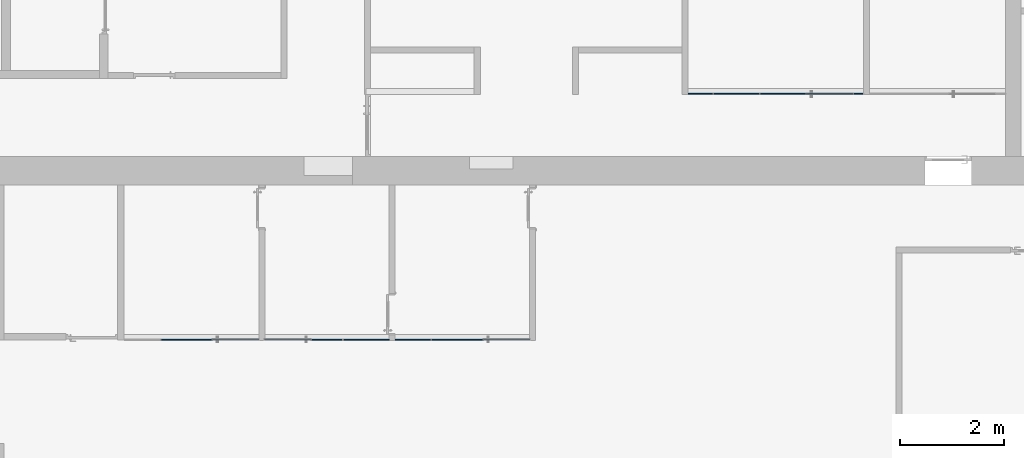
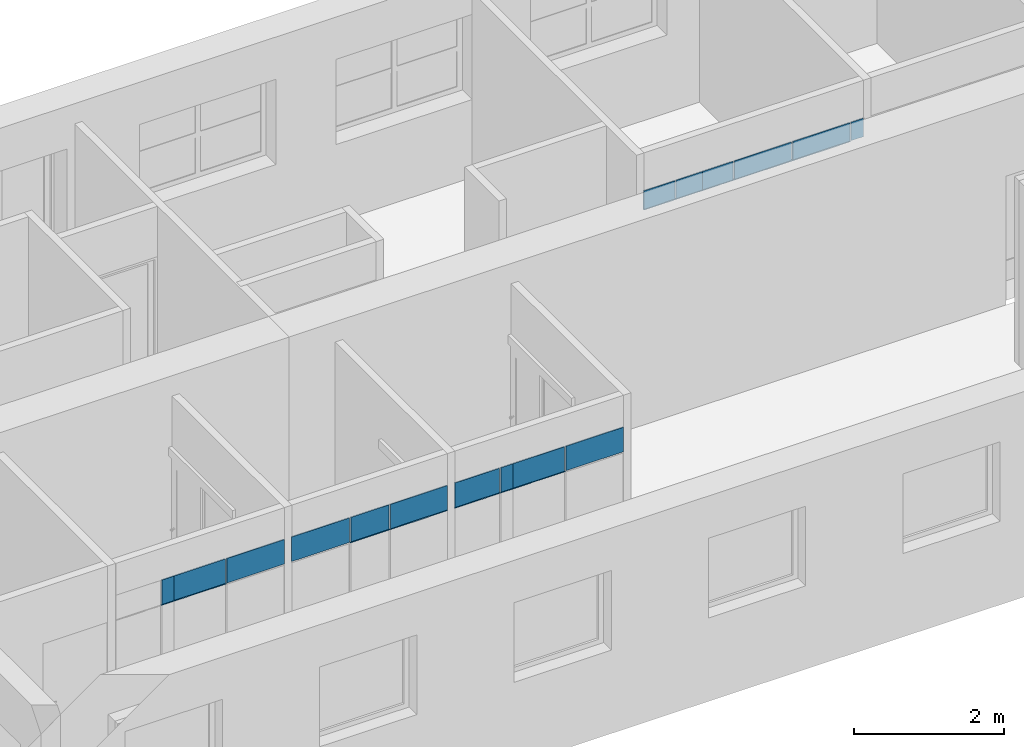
# One storey, part 14 of 49: 28 plates, 4 elements without a shape of their own.
"""IFC2X3 building model written with IfcOpenShell, lengths in millimetres."""

from ifc_helpers import new_model, entity, si_unit, converted_unit, derived_unit, direction, frame, origin, origin_2d_with_axis, place, context, subcontext, project, spatial, rectangle, extrude, source, transform, mapped, material, layer, layer_set, layer_usage, type_object, type_shapes, element, aggregate, save


model = new_model("IFC2X3")

# Units and contexts
model_context = context("Model", 3, precision=0.01, world=origin(), true_north=direction((6.12303176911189e-17, 1.0)))
body_context = subcontext(model_context, "Body", "Model", "MODEL_VIEW")
ifc_project = project(units=[si_unit("LENGTHUNIT", "METRE", prefix="MILLI"), si_unit("AREAUNIT", "SQUARE_METRE"), si_unit("VOLUMEUNIT", "CUBIC_METRE"), converted_unit("PLANEANGLEUNIT", "DEGREE", entity("IfcRatioMeasure", 0.0174532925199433), si_unit("PLANEANGLEUNIT", "RADIAN"), dimensions=[0, 0, 0, 0, 0, 0, 0]), si_unit("MASSUNIT", "GRAM", prefix="KILO"), derived_unit("MASSDENSITYUNIT", [(si_unit("MASSUNIT", "GRAM", prefix="KILO"), 1), (si_unit("LENGTHUNIT", "METRE"), -3)]), si_unit("TIMEUNIT", "SECOND"), si_unit("FREQUENCYUNIT", "HERTZ"), si_unit("THERMODYNAMICTEMPERATUREUNIT", "DEGREE_CELSIUS"), derived_unit("THERMALTRANSMITTANCEUNIT", [(si_unit("MASSUNIT", "GRAM", prefix="KILO"), 1), (si_unit("THERMODYNAMICTEMPERATUREUNIT", "KELVIN"), -1), (si_unit("TIMEUNIT", "SECOND"), -3)]), derived_unit("VOLUMETRICFLOWRATEUNIT", [(si_unit("LENGTHUNIT", "METRE"), 3), (si_unit("TIMEUNIT", "SECOND"), -1)]), si_unit("ELECTRICCURRENTUNIT", "AMPERE"), si_unit("ELECTRICVOLTAGEUNIT", "VOLT"), si_unit("POWERUNIT", "WATT"), si_unit("FORCEUNIT", "NEWTON", prefix="KILO"), si_unit("ILLUMINANCEUNIT", "LUX"), si_unit("LUMINOUSFLUXUNIT", "LUMEN"), si_unit("LUMINOUSINTENSITYUNIT", "CANDELA"), derived_unit("USERDEFINED", [(si_unit("MASSUNIT", "GRAM", prefix="KILO"), -1), (si_unit("LENGTHUNIT", "METRE"), -2), (si_unit("TIMEUNIT", "SECOND"), 3), (si_unit("LUMINOUSFLUXUNIT", "LUMEN"), 1)]), derived_unit("LINEARVELOCITYUNIT", [(si_unit("LENGTHUNIT", "METRE"), 1), (si_unit("TIMEUNIT", "SECOND"), -1)]), si_unit("PRESSUREUNIT", "PASCAL"), derived_unit("USERDEFINED", [(si_unit("LENGTHUNIT", "METRE"), -2), (si_unit("MASSUNIT", "GRAM", prefix="KILO"), 1), (si_unit("TIMEUNIT", "SECOND"), -2)])], contexts=[model_context])

# Site, building, storey
site_placement = place(None, frame((-151.875543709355, 2715.0, 0.0)))
site = spatial("IfcSite", under=ifc_project, at=site_placement, Name="Surface", CompositionType="ELEMENT")
building_placement = place(site_placement, origin())
building = spatial("IfcBuilding", under=site, at=building_placement, CompositionType="ELEMENT")
storey_placement = place(building_placement, origin())
storey = spatial("IfcBuildingStorey", under=building, at=storey_placement, Name="1 korrus", CompositionType="ELEMENT", Elevation=3.0969999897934e-10)

# Curtain wall, plates
curtain_wall_type_1 = type_object("IfcCurtainWallType", Name="Curtain Wall:Klaassein KLS-01", PredefinedType="NOTDEFINED")
curtain_wall_1_placement = place(storey_placement, origin())
curtain_wall_1 = element("IfcCurtainWall", 1, at=curtain_wall_1_placement, inside=storey, type_object=curtain_wall_type_1, Name="Curtain Wall:Klaassein KLS-01", ObjectType="Curtain Wall:Klaassein KLS-01")
ifc_material = material(Name="<Unnamed>")
ifc_layer = layer(ifc_material, 20.0)
ifc_layer_set = layer_set([ifc_layer], Name="Curtain Wall:Klaassein KLS-01")
ifc_layer_usage_1 = layer_usage(ifc_layer_set, "AXIS3", "POSITIVE", 0.0)
plate_type_1 = type_object("IfcPlateType", Name="Glazed", PredefinedType="CURTAIN_PANEL", material=ifc_layer_set)
shared_shape_1 = source(origin(), body_context, "Body", "SweptSolid", [
    extrude(rectangle(XDim=20.0, YDim=701.999999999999, at=origin_2d_with_axis()), frame((0.0, 0.0, 0.0), z_axis=(0.0, 0.0, 1.0), x_axis=(0.0, 1.0, 0.0)), (0.0, 0.0, 1.0), 9.99999999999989),
])
type_shapes(plate_type_1, [shared_shape_1])
plate_1_placement = place(curtain_wall_1_placement, frame((17404.2710850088, 3017.5, 2090.0)))
plate_1 = element("IfcPlate", 2, at=plate_1_placement, type_object=plate_type_1, material=ifc_layer_usage_1, Name="System Panel:Glazed", ObjectType="Glazed", context=body_context, shape_type="MappedRepresentation", body=[
    mapped(shared_shape_1, transform((0.0, 0.0, 0.0), scale=1.0)),
])
ifc_layer_usage_2 = layer_usage(ifc_layer_set, "AXIS3", "POSITIVE", 0.0)
plate_type_2 = type_object("IfcPlateType", Name="Glazed", PredefinedType="CURTAIN_PANEL", material=ifc_layer_set)
shared_shape_2 = source(origin(), body_context, "Body", "SweptSolid", [
    extrude(rectangle(XDim=20.0, YDim=198.000000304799, at=origin_2d_with_axis()), frame((0.0, 0.0, 0.0), z_axis=(0.0, 0.0, 1.0), x_axis=(0.0, 1.0, 0.0)), (0.0, 0.0, 1.0), 9.99999999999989),
])
type_shapes(plate_type_2, [shared_shape_2])
plate_2_placement = place(curtain_wall_1_placement, frame((17854.2710851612, 3017.49999999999, 2090.0)))
plate_2 = element("IfcPlate", 3, at=plate_2_placement, type_object=plate_type_2, material=ifc_layer_usage_2, Name="System Panel:Glazed", ObjectType="Glazed", context=body_context, shape_type="MappedRepresentation", body=[
    mapped(shared_shape_2, transform((0.0, 0.0, 0.0), scale=1.0)),
])

# Curtain wall, plate
curtain_wall_2_placement = place(storey_placement, origin())
curtain_wall_2 = element("IfcCurtainWall", 4, at=curtain_wall_2_placement, inside=storey, type_object=curtain_wall_type_1, Name="Curtain Wall:Klaassein KLS-01", ObjectType="Curtain Wall:Klaassein KLS-01")
ifc_layer_usage_3 = layer_usage(ifc_layer_set, "AXIS3", "POSITIVE", 0.0)
plate_3_placement = place(curtain_wall_2_placement, frame((12623.271085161, 3017.50000000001, 2090.0)))
plate_3 = element("IfcPlate", 5, at=plate_3_placement, type_object=plate_type_2, material=ifc_layer_usage_3, Name="System Panel:Glazed", ObjectType="Glazed", context=body_context, shape_type="MappedRepresentation", body=[
    mapped(shared_shape_2, transform((0.0, 0.0, 0.0), scale=1.0)),
])

# Plate
ifc_layer_usage_4 = layer_usage(ifc_layer_set, "AXIS3", "POSITIVE", 0.0)
plate_type_3 = type_object("IfcPlateType", Name="Glazed", PredefinedType="CURTAIN_PANEL", material=ifc_layer_set)
shared_shape_3 = source(origin(), body_context, "Body", "SweptSolid", [
    extrude(rectangle(XDim=20.0, YDim=801.999999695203, at=origin_2d_with_axis()), frame((0.0, 0.0, 0.0), z_axis=(0.0, 0.0, 1.0), x_axis=(0.0, 1.0, 0.0)), (0.0, 0.0, 1.0), 9.99999999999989),
])
type_shapes(plate_type_3, [shared_shape_3])
plate_4_placement = place(curtain_wall_1_placement, frame((18354.2710851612, 3017.49999999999, 2090.0)))
plate_4 = element("IfcPlate", 6, at=plate_4_placement, type_object=plate_type_3, material=ifc_layer_usage_4, Name="System Panel:Glazed", ObjectType="Glazed", context=body_context, shape_type="MappedRepresentation", body=[
    mapped(shared_shape_3, transform((0.0, 0.0, 0.0), scale=1.0)),
])

ifc_layer_usage_5 = layer_usage(ifc_layer_set, "AXIS3", "POSITIVE", 0.0)
plate_5_placement = place(curtain_wall_2_placement, frame((13123.271085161, 3017.50000000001, 2090.0)))
plate_5 = element("IfcPlate", 7, at=plate_5_placement, type_object=plate_type_3, material=ifc_layer_usage_5, Name="System Panel:Glazed", ObjectType="Glazed", context=body_context, shape_type="MappedRepresentation", body=[
    mapped(shared_shape_3, transform((0.0, 0.0, 0.0), scale=1.0)),
])

ifc_layer_usage_6 = layer_usage(ifc_layer_set, "AXIS3", "POSITIVE", 0.0)
plate_type_4 = type_object("IfcPlateType", Name="Glazed", PredefinedType="CURTAIN_PANEL", material=ifc_layer_set)
shared_shape_4 = source(origin(), body_context, "Body", "SweptSolid", [
    extrude(rectangle(XDim=20.0, YDim=691.999999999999, at=origin_2d_with_axis()), frame((0.0, 0.0, 0.0), z_axis=(0.0, 0.0, 1.0), x_axis=(0.0, 1.0, 0.0)), (0.0, 0.0, 1.0), 400.000000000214),
])
type_shapes(plate_type_4, [shared_shape_4])
plate_6_placement = place(curtain_wall_1_placement, frame((17399.2710850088, 3017.5, 2100.0)))
plate_6 = element("IfcPlate", 8, at=plate_6_placement, type_object=plate_type_4, material=ifc_layer_usage_6, Name="System Panel:Glazed", ObjectType="Glazed", context=body_context, shape_type="MappedRepresentation", body=[
    mapped(shared_shape_4, transform((0.0, 0.0, 0.0), scale=1.0)),
])

ifc_layer_usage_7 = layer_usage(ifc_layer_set, "AXIS3", "POSITIVE", 0.0)
plate_type_5 = type_object("IfcPlateType", Name="Glazed", PredefinedType="CURTAIN_PANEL", material=ifc_layer_set)
shared_shape_5 = source(origin(), body_context, "Body", "SweptSolid", [
    extrude(rectangle(XDim=20.0, YDim=188.0000003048, at=origin_2d_with_axis()), frame((0.0, 0.0, 0.0), z_axis=(0.0, 0.0, 1.0), x_axis=(0.0, 1.0, 0.0)), (0.0, 0.0, 1.0), 400.000000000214),
])
type_shapes(plate_type_5, [shared_shape_5])
plate_7_placement = place(curtain_wall_1_placement, frame((17859.2710851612, 3017.49999999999, 2100.0)))
plate_7 = element("IfcPlate", 9, at=plate_7_placement, type_object=plate_type_5, material=ifc_layer_usage_7, Name="System Panel:Glazed", ObjectType="Glazed", context=body_context, shape_type="MappedRepresentation", body=[
    mapped(shared_shape_5, transform((0.0, 0.0, 0.0), scale=1.0)),
])

ifc_layer_usage_8 = layer_usage(ifc_layer_set, "AXIS3", "POSITIVE", 0.0)
plate_8_placement = place(curtain_wall_2_placement, frame((12628.271085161, 3017.50000000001, 2100.0)))
plate_8 = element("IfcPlate", 10, at=plate_8_placement, type_object=plate_type_5, material=ifc_layer_usage_8, Name="System Panel:Glazed", ObjectType="Glazed", context=body_context, shape_type="MappedRepresentation", body=[
    mapped(shared_shape_5, transform((0.0, 0.0, 0.0), scale=1.0)),
])

ifc_layer_usage_9 = layer_usage(ifc_layer_set, "AXIS3", "POSITIVE", 0.0)
plate_type_6 = type_object("IfcPlateType", Name="Glazed", PredefinedType="CURTAIN_PANEL", material=ifc_layer_set)
shared_shape_6 = source(origin(), body_context, "Body", "SweptSolid", [
    extrude(rectangle(XDim=20.0, YDim=791.999999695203, at=origin_2d_with_axis()), frame((0.0, 0.0, 0.0), z_axis=(0.0, 0.0, 1.0), x_axis=(0.0, 1.0, 0.0)), (0.0, 0.0, 1.0), 400.000000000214),
])
type_shapes(plate_type_6, [shared_shape_6])
plate_9_placement = place(curtain_wall_1_placement, frame((18349.2710851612, 3017.49999999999, 2100.0)))
plate_9 = element("IfcPlate", 11, at=plate_9_placement, type_object=plate_type_6, material=ifc_layer_usage_9, Name="System Panel:Glazed", ObjectType="Glazed", context=body_context, shape_type="MappedRepresentation", body=[
    mapped(shared_shape_6, transform((0.0, 0.0, 0.0), scale=1.0)),
])

ifc_layer_usage_10 = layer_usage(ifc_layer_set, "AXIS3", "POSITIVE", 0.0)
plate_10_placement = place(curtain_wall_2_placement, frame((13118.271085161, 3017.50000000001, 2100.0)))
plate_10 = element("IfcPlate", 12, at=plate_10_placement, type_object=plate_type_6, material=ifc_layer_usage_10, Name="System Panel:Glazed", ObjectType="Glazed", context=body_context, shape_type="MappedRepresentation", body=[
    mapped(shared_shape_6, transform((0.0, 0.0, 0.0), scale=1.0)),
])

ifc_layer_usage_11 = layer_usage(ifc_layer_set, "AXIS3", "POSITIVE", 0.0)
plate_type_7 = type_object("IfcPlateType", Name="Glazed", PredefinedType="CURTAIN_PANEL", material=ifc_layer_set)
shared_shape_7 = source(origin(), body_context, "Body", "SweptSolid", [
    extrude(rectangle(XDim=20.0, YDim=888.0, at=origin_2d_with_axis()), frame((0.0, 0.0, 0.0), z_axis=(0.0, 0.0, 1.0), x_axis=(0.0, 1.0, 0.0)), (0.0, 0.0, 1.0), 400.000000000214),
])
type_shapes(plate_type_7, [shared_shape_7])
plate_11_placement = place(curtain_wall_1_placement, frame((19209.2710850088, 3017.49999999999, 2100.0)))
plate_11 = element("IfcPlate", 13, at=plate_11_placement, type_object=plate_type_7, material=ifc_layer_usage_11, Name="System Panel:Glazed", ObjectType="Glazed", context=body_context, shape_type="MappedRepresentation", body=[
    mapped(shared_shape_7, transform((0.0, 0.0, 0.0), scale=1.0)),
])

aggregate(curtain_wall_1, [plate_1, plate_2, plate_4, plate_6, plate_7, plate_9, plate_11])

ifc_layer_usage_12 = layer_usage(ifc_layer_set, "AXIS3", "POSITIVE", 0.0)
plate_12_placement = place(curtain_wall_2_placement, frame((13978.2710850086, 3017.50000000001, 2100.0)))
plate_12 = element("IfcPlate", 14, at=plate_12_placement, type_object=plate_type_7, material=ifc_layer_usage_12, Name="System Panel:Glazed", ObjectType="Glazed", context=body_context, shape_type="MappedRepresentation", body=[
    mapped(shared_shape_7, transform((0.0, 0.0, 0.0), scale=1.0)),
])

aggregate(curtain_wall_2, [plate_3, plate_5, plate_8, plate_10, plate_12])

# Curtain wall, plates
curtain_wall_type_2 = type_object("IfcCurtainWallType", Name="Curtain Wall:Klaassein KLS-02", PredefinedType="NOTDEFINED")
curtain_wall_3_placement = place(storey_placement, origin())
curtain_wall_3 = element("IfcCurtainWall", 15, at=curtain_wall_3_placement, inside=storey, type_object=curtain_wall_type_2, Name="Curtain Wall:Klaassein KLS-02", ObjectType="Curtain Wall:Klaassein KLS-02")
ifc_layer_usage_13 = layer_usage(ifc_layer_set, "AXIS3", "POSITIVE", 0.0)
plate_type_8 = type_object("IfcPlateType", Name="Glazed", PredefinedType="CURTAIN_PANEL", material=ifc_layer_set)
shared_shape_8 = source(origin(), body_context, "Body", "SweptSolid", [
    extrude(rectangle(XDim=20.0, YDim=890.0000003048, at=origin_2d_with_axis()), frame((0.0, 0.0, 0.0), z_axis=(0.0, 0.0, 1.0), x_axis=(0.0, 1.0, 0.0)), (0.0, 0.0, 1.0), 9.99999999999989),
])
type_shapes(plate_type_8, [shared_shape_8])
plate_13_placement = place(curtain_wall_3_placement, frame((16493.2710848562, 3017.50000000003, 2090.0), z_axis=(0.0, 0.0, 1.0), x_axis=(-1.0, 0.0, 0.0)))
plate_13 = element("IfcPlate", 16, at=plate_13_placement, type_object=plate_type_8, material=ifc_layer_usage_13, Name="System Panel:Glazed", ObjectType="Glazed", context=body_context, shape_type="MappedRepresentation", body=[
    mapped(shared_shape_8, transform((0.0, 0.0, 0.0), scale=1.0)),
])
ifc_layer_usage_14 = layer_usage(ifc_layer_set, "AXIS3", "POSITIVE", 0.0)
plate_type_9 = type_object("IfcPlateType", Name="Glazed", PredefinedType="CURTAIN_PANEL", material=ifc_layer_set)
shared_shape_9 = source(origin(), body_context, "Body", "SweptSolid", [
    extrude(rectangle(XDim=20.0, YDim=600.0, at=origin_2d_with_axis()), frame((0.0, 0.0, 0.0), z_axis=(0.0, 0.0, 1.0), x_axis=(0.0, 1.0, 0.0)), (0.0, 0.0, 1.0), 9.99999999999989),
])
type_shapes(plate_type_9, [shared_shape_9])
plate_14_placement = place(curtain_wall_3_placement, frame((15738.2710847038, 3017.50000000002, 2090.0), z_axis=(0.0, 0.0, 1.0), x_axis=(-1.0, 0.0, 0.0)))
plate_14 = element("IfcPlate", 17, at=plate_14_placement, type_object=plate_type_9, material=ifc_layer_usage_14, Name="System Panel:Glazed", ObjectType="Glazed", context=body_context, shape_type="MappedRepresentation", body=[
    mapped(shared_shape_9, transform((0.0, 0.0, 0.0), scale=1.0)),
])
ifc_layer_usage_15 = layer_usage(ifc_layer_set, "AXIS3", "POSITIVE", 0.0)
plate_type_10 = type_object("IfcPlateType", Name="Glazed", PredefinedType="CURTAIN_PANEL", material=ifc_layer_set)
shared_shape_10 = source(origin(), body_context, "Body", "SweptSolid", [
    extrude(rectangle(XDim=20.0, YDim=880.000000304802, at=origin_2d_with_axis()), frame((0.0, 0.0, 0.0), z_axis=(0.0, 0.0, 1.0), x_axis=(0.0, 1.0, 0.0)), (0.0, 0.0, 1.0), 400.000000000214),
])
type_shapes(plate_type_10, [shared_shape_10])
plate_15_placement = place(curtain_wall_3_placement, frame((16498.2710848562, 3017.50000000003, 2100.0), z_axis=(0.0, 0.0, 1.0), x_axis=(-1.0, 0.0, 0.0)))
plate_15 = element("IfcPlate", 18, at=plate_15_placement, type_object=plate_type_10, material=ifc_layer_usage_15, Name="System Panel:Glazed", ObjectType="Glazed", context=body_context, shape_type="MappedRepresentation", body=[
    mapped(shared_shape_10, transform((0.0, 0.0, 0.0), scale=1.0)),
])
ifc_layer_usage_16 = layer_usage(ifc_layer_set, "AXIS3", "POSITIVE", 0.0)
plate_type_11 = type_object("IfcPlateType", Name="Glazed", PredefinedType="CURTAIN_PANEL", material=ifc_layer_set)
shared_shape_11 = source(origin(), body_context, "Body", "SweptSolid", [
    extrude(rectangle(XDim=20.0, YDim=590.0, at=origin_2d_with_axis()), frame((0.0, 0.0, 0.0), z_axis=(0.0, 0.0, 1.0), x_axis=(0.0, 1.0, 0.0)), (0.0, 0.0, 1.0), 400.000000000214),
])
type_shapes(plate_type_11, [shared_shape_11])
plate_16_placement = place(curtain_wall_3_placement, frame((15743.2710847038, 3017.50000000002, 2100.0), z_axis=(0.0, 0.0, 1.0), x_axis=(-1.0, 0.0, 0.0)))
plate_16 = element("IfcPlate", 19, at=plate_16_placement, type_object=plate_type_11, material=ifc_layer_usage_16, Name="System Panel:Glazed", ObjectType="Glazed", context=body_context, shape_type="MappedRepresentation", body=[
    mapped(shared_shape_11, transform((0.0, 0.0, 0.0), scale=1.0)),
])
ifc_layer_usage_17 = layer_usage(ifc_layer_set, "AXIS3", "POSITIVE", 0.0)
plate_type_12 = type_object("IfcPlateType", Name="Glazed", PredefinedType="CURTAIN_PANEL", material=ifc_layer_set)
shared_shape_12 = source(origin(), body_context, "Body", "SweptSolid", [
    extrude(rectangle(XDim=20.0, YDim=891.9999996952, at=origin_2d_with_axis()), frame((0.0, 0.0, 0.0), z_axis=(0.0, 0.0, 1.0), x_axis=(0.0, 1.0, 0.0)), (0.0, 0.0, 1.0), 400.000000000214),
])
type_shapes(plate_type_12, [shared_shape_12])
plate_17_placement = place(curtain_wall_3_placement, frame((14982.2710848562, 3017.50000000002, 2100.0), z_axis=(0.0, 0.0, 1.0), x_axis=(-1.0, 0.0, 0.0)))
plate_17 = element("IfcPlate", 20, at=plate_17_placement, type_object=plate_type_12, material=ifc_layer_usage_17, Name="System Panel:Glazed", ObjectType="Glazed", context=body_context, shape_type="MappedRepresentation", body=[
    mapped(shared_shape_12, transform((0.0, 0.0, 0.0), scale=1.0)),
])
aggregate(curtain_wall_3, [plate_13, plate_14, plate_15, plate_16, plate_17])

curtain_wall_type_3 = type_object("IfcCurtainWallType", Name="Curtain Wall:Klaassein KLS-03", PredefinedType="NOTDEFINED")
curtain_wall_4_placement = place(storey_placement, origin())
curtain_wall_4 = element("IfcCurtainWall", 21, at=curtain_wall_4_placement, inside=storey, type_object=curtain_wall_type_3, Name="Curtain Wall:Klaassein KLS-03", ObjectType="Curtain Wall:Klaassein KLS-03")
ifc_layer_usage_18 = layer_usage(ifc_layer_set, "AXIS3", "POSITIVE", 0.0)
plate_type_13 = type_object("IfcPlateType", Name="Glazed", PredefinedType="CURTAIN_PANEL", material=ifc_layer_set)
shared_shape_13 = source(origin(), body_context, "Body", "SweptSolid", [
    extrude(rectangle(XDim=20.0, YDim=900.0000003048, at=origin_2d_with_axis()), frame((0.0, 0.0, 0.0), z_axis=(0.0, 0.0, 1.0), x_axis=(0.0, 1.0, 0.0)), (0.0, 0.0, 1.0), 9.99999999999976),
])
type_shapes(plate_type_13, [shared_shape_13])
plate_18_placement = place(curtain_wall_4_placement, frame((24551.2300720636, 7770.0, 2090.0)))
plate_18 = element("IfcPlate", 22, at=plate_18_placement, type_object=plate_type_13, material=ifc_layer_usage_18, Name="System Panel:Glazed", ObjectType="Glazed", context=body_context, shape_type="MappedRepresentation", body=[
    mapped(shared_shape_13, transform((0.0, 0.0, 0.0), scale=1.0)),
])
ifc_layer_usage_19 = layer_usage(ifc_layer_set, "AXIS3", "POSITIVE", 0.0)
plate_19_placement = place(curtain_wall_4_placement, frame((25451.2300720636, 7770.0, 2090.0)))
plate_19 = element("IfcPlate", 23, at=plate_19_placement, type_object=plate_type_13, material=ifc_layer_usage_19, Name="System Panel:Glazed", ObjectType="Glazed", context=body_context, shape_type="MappedRepresentation", body=[
    mapped(shared_shape_13, transform((0.0, 0.0, 0.0), scale=1.0)),
])
ifc_layer_usage_20 = layer_usage(ifc_layer_set, "AXIS3", "POSITIVE", 0.0)
plate_type_14 = type_object("IfcPlateType", Name="Glazed", PredefinedType="CURTAIN_PANEL", material=ifc_layer_set)
shared_shape_14 = source(origin(), body_context, "Body", "SweptSolid", [
    extrude(rectangle(XDim=20.0, YDim=879.999999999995, at=origin_2d_with_axis()), frame((0.0, 0.0, 0.0), z_axis=(0.0, 0.0, 1.0), x_axis=(0.0, 1.0, 0.0)), (0.0, 0.0, 1.0), 299.999999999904),
])
type_shapes(plate_type_14, [shared_shape_14])
plate_20_placement = place(curtain_wall_4_placement, frame((24551.2300720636, 7770.0, 2100.0)))
plate_20 = element("IfcPlate", 24, at=plate_20_placement, type_object=plate_type_14, material=ifc_layer_usage_20, Name="System Panel:Glazed", ObjectType="Glazed", context=body_context, shape_type="MappedRepresentation", body=[
    mapped(shared_shape_14, transform((0.0, 0.0, 0.0), scale=1.0)),
])
ifc_layer_usage_21 = layer_usage(ifc_layer_set, "AXIS3", "POSITIVE", 0.0)
plate_21_placement = place(curtain_wall_4_placement, frame((25451.2300720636, 7770.0, 2100.0)))
plate_21 = element("IfcPlate", 25, at=plate_21_placement, type_object=plate_type_14, material=ifc_layer_usage_21, Name="System Panel:Glazed", ObjectType="Glazed", context=body_context, shape_type="MappedRepresentation", body=[
    mapped(shared_shape_14, transform((0.0, 0.0, 0.0), scale=1.0)),
])
ifc_layer_usage_22 = layer_usage(ifc_layer_set, "AXIS3", "POSITIVE", 0.0)
plate_type_15 = type_object("IfcPlateType", Name="Glazed", PredefinedType="CURTAIN_PANEL", material=ifc_layer_set)
shared_shape_15 = source(origin(), body_context, "Body", "SweptSolid", [
    extrude(rectangle(XDim=20.0, YDim=190.0, at=origin_2d_with_axis()), frame((0.0, 0.0, 0.0), z_axis=(0.0, 0.0, 1.0), x_axis=(0.0, 1.0, 0.0)), (0.0, 0.0, 1.0), 299.999999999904),
])
type_shapes(plate_type_15, [shared_shape_15])
plate_22_placement = place(curtain_wall_4_placement, frame((26006.2300720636, 7770.0, 2100.0)))
plate_22 = element("IfcPlate", 26, at=plate_22_placement, type_object=plate_type_15, material=ifc_layer_usage_22, Name="System Panel:Glazed", ObjectType="Glazed", context=body_context, shape_type="MappedRepresentation", body=[
    mapped(shared_shape_15, transform((0.0, 0.0, 0.0), scale=1.0)),
])
ifc_layer_usage_23 = layer_usage(ifc_layer_set, "AXIS3", "POSITIVE", 0.0)
plate_type_16 = type_object("IfcPlateType", Name="Glazed", PredefinedType="CURTAIN_PANEL", material=ifc_layer_set)
shared_shape_16 = source(origin(), body_context, "Body", "SweptSolid", [
    extrude(rectangle(XDim=20.0, YDim=486.681620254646, at=origin_2d_with_axis()), frame((0.0, 0.0, 0.0), z_axis=(0.0, 0.0, 1.0), x_axis=(0.0, 1.0, 0.0)), (0.0, 0.0, 1.0), 9.99999999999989),
])
type_shapes(plate_type_16, [shared_shape_16])
plate_23_placement = place(curtain_wall_4_placement, frame((22957.8892617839, 7770.0, 2090.0)))
plate_23 = element("IfcPlate", 27, at=plate_23_placement, type_object=plate_type_16, material=ifc_layer_usage_23, Name="System Panel:Glazed", ObjectType="Glazed", context=body_context, shape_type="MappedRepresentation", body=[
    mapped(shared_shape_16, transform((0.0, 0.0, 0.0), scale=1.0)),
])
ifc_layer_usage_24 = layer_usage(ifc_layer_set, "AXIS3", "POSITIVE", 0.0)
plate_24_placement = place(curtain_wall_4_placement, frame((23857.8892619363, 7770.0, 2090.0)))
plate_24 = element("IfcPlate", 28, at=plate_24_placement, type_object=plate_type_16, material=ifc_layer_usage_24, Name="System Panel:Glazed", ObjectType="Glazed", context=body_context, shape_type="MappedRepresentation", body=[
    mapped(shared_shape_16, transform((0.0, 0.0, 0.0), scale=1.0)),
])
ifc_layer_usage_25 = layer_usage(ifc_layer_set, "AXIS3", "POSITIVE", 0.0)
plate_type_17 = type_object("IfcPlateType", Name="Glazed", PredefinedType="CURTAIN_PANEL", material=ifc_layer_set)
shared_shape_17 = source(origin(), body_context, "Body", "SweptSolid", [
    extrude(rectangle(XDim=20.0, YDim=413.318379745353, at=origin_2d_with_axis()), frame((0.0, 0.0, 0.0), z_axis=(0.0, 0.0, 1.0), x_axis=(0.0, 1.0, 0.0)), (0.0, 0.0, 1.0), 9.99999999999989),
])
type_shapes(plate_type_17, [shared_shape_17])
plate_25_placement = place(curtain_wall_4_placement, frame((23407.8892619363, 7770.0, 2090.0)))
plate_25 = element("IfcPlate", 29, at=plate_25_placement, type_object=plate_type_17, material=ifc_layer_usage_25, Name="System Panel:Glazed", ObjectType="Glazed", context=body_context, shape_type="MappedRepresentation", body=[
    mapped(shared_shape_17, transform((0.0, 0.0, 0.0), scale=1.0)),
])
ifc_layer_usage_26 = layer_usage(ifc_layer_set, "AXIS3", "POSITIVE", 0.0)
plate_type_18 = type_object("IfcPlateType", Name="Glazed", PredefinedType="CURTAIN_PANEL", material=ifc_layer_set)
shared_shape_18 = source(origin(), body_context, "Body", "SweptSolid", [
    extrude(rectangle(XDim=20.0, YDim=476.681620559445, at=origin_2d_with_axis()), frame((0.0, 0.0, 0.0), z_axis=(0.0, 0.0, 1.0), x_axis=(0.0, 1.0, 0.0)), (0.0, 0.0, 1.0), 299.999999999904),
])
type_shapes(plate_type_18, [shared_shape_18])
plate_26_placement = place(curtain_wall_4_placement, frame((22952.8892617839, 7770.0, 2100.0)))
plate_26 = element("IfcPlate", 30, at=plate_26_placement, type_object=plate_type_18, material=ifc_layer_usage_26, Name="System Panel:Glazed", ObjectType="Glazed", context=body_context, shape_type="MappedRepresentation", body=[
    mapped(shared_shape_18, transform((0.0, 0.0, 0.0), scale=1.0)),
])
ifc_layer_usage_27 = layer_usage(ifc_layer_set, "AXIS3", "POSITIVE", 0.0)
plate_27_placement = place(curtain_wall_4_placement, frame((23852.8892619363, 7770.0, 2100.0)))
plate_27 = element("IfcPlate", 31, at=plate_27_placement, type_object=plate_type_18, material=ifc_layer_usage_27, Name="System Panel:Glazed", ObjectType="Glazed", context=body_context, shape_type="MappedRepresentation", body=[
    mapped(shared_shape_18, transform((0.0, 0.0, 0.0), scale=1.0)),
])
ifc_layer_usage_28 = layer_usage(ifc_layer_set, "AXIS3", "POSITIVE", 0.0)
plate_type_19 = type_object("IfcPlateType", Name="Glazed", PredefinedType="CURTAIN_PANEL", material=ifc_layer_set)
shared_shape_19 = source(origin(), body_context, "Body", "SweptSolid", [
    extrude(rectangle(XDim=20.0, YDim=403.318379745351, at=origin_2d_with_axis()), frame((0.0, 0.0, 0.0), z_axis=(0.0, 0.0, 1.0), x_axis=(0.0, 1.0, 0.0)), (0.0, 0.0, 1.0), 299.999999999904),
])
type_shapes(plate_type_19, [shared_shape_19])
plate_28_placement = place(curtain_wall_4_placement, frame((23412.8892619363, 7770.0, 2100.0)))
plate_28 = element("IfcPlate", 32, at=plate_28_placement, type_object=plate_type_19, material=ifc_layer_usage_28, Name="System Panel:Glazed", ObjectType="Glazed", context=body_context, shape_type="MappedRepresentation", body=[
    mapped(shared_shape_19, transform((0.0, 0.0, 0.0), scale=1.0)),
])
aggregate(curtain_wall_4, [plate_23, plate_25, plate_24, plate_18, plate_19, plate_26, plate_28, plate_27, plate_20, plate_21, plate_22])

save(model, "model.ifc")
